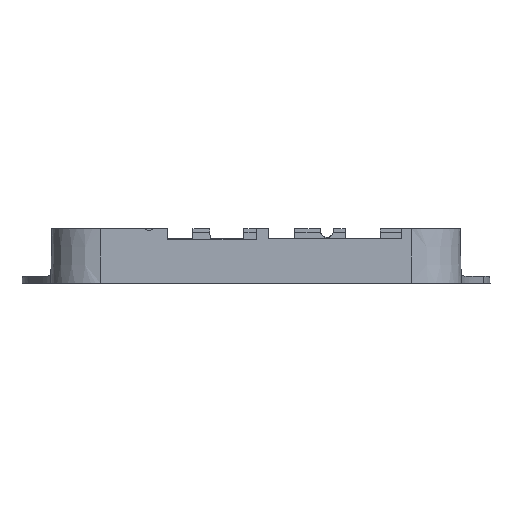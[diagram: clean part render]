
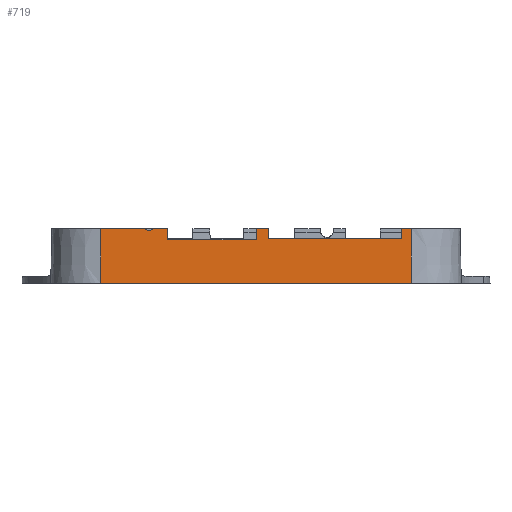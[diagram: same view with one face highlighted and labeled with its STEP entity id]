
A CAD part, left-side view. The second image highlights one B-rep face of the part: STEP entity #719.
In plain terms, the highlighted planar face has unit normal (-1, 0, 0.017).
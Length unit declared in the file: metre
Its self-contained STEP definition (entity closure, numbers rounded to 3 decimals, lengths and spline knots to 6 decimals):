
#719=ADVANCED_FACE('0:3968',(#1437),#1438,.T.);
#1437=FACE_OUTER_BOUND('',#3755,.T.);
#1438=PLANE('',#3756);
#3755=EDGE_LOOP('',(#5668,#5669,#5670,#5671,#5672,#5673,#5674,#5675,#5676,#5677,#5678,#5679,#5680,#5681));
#3756=AXIS2_PLACEMENT_3D('',#5682,#5683,#5684);
#5668=ORIENTED_EDGE('',*,*,#6835,.F.);
#5669=ORIENTED_EDGE('',*,*,#6535,.F.);
#5670=ORIENTED_EDGE('',*,*,#6818,.T.);
#5671=ORIENTED_EDGE('',*,*,#6637,.T.);
#5672=ORIENTED_EDGE('',*,*,#6836,.T.);
#5673=ORIENTED_EDGE('',*,*,#6515,.T.);
#5674=ORIENTED_EDGE('',*,*,#6832,.T.);
#5675=ORIENTED_EDGE('',*,*,#6632,.T.);
#5676=ORIENTED_EDGE('',*,*,#6837,.T.);
#5677=ORIENTED_EDGE('',*,*,#6505,.T.);
#5678=ORIENTED_EDGE('',*,*,#6503,.T.);
#5679=ORIENTED_EDGE('',*,*,#6498,.F.);
#5680=ORIENTED_EDGE('',*,*,#6698,.F.);
#5681=ORIENTED_EDGE('',*,*,#6713,.T.);
#5682=CARTESIAN_POINT('',(-0.003227,0.095471,0.000001));
#5683=DIRECTION('',(-1.,0.,0.017));
#5684=DIRECTION('',(0.,1.0,0.0));
#6498=EDGE_CURVE('0:1928',#7697,#7700,#7701,.F.);
#6503=EDGE_CURVE('0:1925',#7705,#7700,#7707,.F.);
#6505=EDGE_CURVE('0:1922',#7709,#7705,#7710,.T.);
#6515=EDGE_CURVE('0:1910',#7722,#7724,#7726,.T.);
#6535=EDGE_CURVE('0:1781',#7755,#7757,#7758,.F.);
#6632=EDGE_CURVE('0:1916',#7895,#7893,#7896,.T.);
#6637=EDGE_CURVE('0:1904',#7904,#7902,#7905,.T.);
#6698=EDGE_CURVE('0:5125',#7970,#7697,#7971,.T.);
#6713=EDGE_CURVE('0:1004',#7970,#7986,#7988,.T.);
#6818=EDGE_CURVE('0:5254',#7755,#7904,#8138,.T.);
#6832=EDGE_CURVE('0:5214',#7724,#7895,#8152,.T.);
#6835=EDGE_CURVE('0:5244',#7757,#7986,#8155,.T.);
#6836=EDGE_CURVE('0:5201',#7902,#7722,#8156,.T.);
#6837=EDGE_CURVE('0:5115',#7893,#7709,#8157,.T.);
#7697=VERTEX_POINT('',#9732);
#7700=VERTEX_POINT('',#9735);
#7701=LINE('',#9736,#9737);
#7705=VERTEX_POINT('',#9743);
#7707=ELLIPSE('',#9746,0.00175,0.00175);
#7709=VERTEX_POINT('',#9748);
#7710=LINE('',#9749,#9750);
#7722=VERTEX_POINT('',#9767);
#7724=VERTEX_POINT('',#9770);
#7726=LINE('',#9773,#9774);
#7755=VERTEX_POINT('',#9814);
#7757=VERTEX_POINT('',#9817);
#7758=LINE('',#9818,#9819);
#7893=VERTEX_POINT('',#10014);
#7895=VERTEX_POINT('',#10017);
#7896=LINE('',#10018,#10019);
#7902=VERTEX_POINT('',#10027);
#7904=VERTEX_POINT('',#10030);
#7905=LINE('',#10031,#10032);
#7970=VERTEX_POINT('',#10114);
#7971=LINE('',#10115,#10116);
#7986=VERTEX_POINT('',#10137);
#7988=LINE('',#10139,#10140);
#8138=LINE('',#10562,#10563);
#8152=LINE('',#10583,#10584);
#8155=LINE('',#10588,#10589);
#8156=LINE('',#10590,#10591);
#8157=LINE('',#10592,#10593);
#9732=CARTESIAN_POINT('',(-0.003209,0.095522,0.001083));
#9735=CARTESIAN_POINT('',(-0.003209,0.083501,0.001083));
#9736=CARTESIAN_POINT('',(-0.003209,0.074183,0.001083));
#9737=VECTOR('',#11268,0.01);
#9743=CARTESIAN_POINT('',(-0.003209,0.081099,0.001083));
#9746=AXIS2_PLACEMENT_3D('',#11272,#11273,#11274);
#9748=CARTESIAN_POINT('',(-0.003209,0.077183,0.001083));
#9749=CARTESIAN_POINT('',(-0.003209,0.074183,0.001083));
#9750=VECTOR('',#11275,0.01);
#9767=CARTESIAN_POINT('',(-0.003209,0.049405,0.001083));
#9770=CARTESIAN_POINT('',(-0.003209,0.052802,0.001083));
#9773=CARTESIAN_POINT('',(-0.003209,0.074183,0.001083));
#9774=VECTOR('',#11283,0.01);
#9814=CARTESIAN_POINT('',(-0.003209,0.012843,0.001083));
#9817=CARTESIAN_POINT('',(-0.003209,0.010269,0.001083));
#9818=CARTESIAN_POINT('',(-0.003209,0.074183,0.001083));
#9819=VECTOR('',#11302,0.01);
#10014=CARTESIAN_POINT('',(-0.00326,0.077156,-0.001984));
#10017=CARTESIAN_POINT('',(-0.00326,0.052829,-0.001984));
#10018=CARTESIAN_POINT('',(-0.00326,0.082853,-0.001984));
#10019=VECTOR('',#11409,0.01);
#10027=CARTESIAN_POINT('',(-0.003255,0.049381,-0.001684));
#10030=CARTESIAN_POINT('',(-0.003255,0.012867,-0.001684));
#10031=CARTESIAN_POINT('',(-0.003255,0.067992,-0.001684));
#10032=VECTOR('',#11413,0.01);
#10114=CARTESIAN_POINT('',(-0.003459,0.095504,-0.014));
#10115=CARTESIAN_POINT('',(-0.003311,0.095515,-0.005062));
#10116=VECTOR('',#11467,0.010001);
#10137=CARTESIAN_POINT('',(-0.003459,0.010287,-0.014));
#10139=CARTESIAN_POINT('',(-0.003459,0.074183,-0.014));
#10140=VECTOR('',#11480,0.01);
#10562=CARTESIAN_POINT('',(-0.00322,0.012848,0.000458));
#10563=VECTOR('',#11559,1.0);
#10583=CARTESIAN_POINT('',(-0.003216,0.052806,0.000646));
#10584=VECTOR('',#11566,1.0);
#10588=CARTESIAN_POINT('',(-0.003316,0.010277,-0.005386));
#10589=VECTOR('',#11568,0.010001);
#10590=CARTESIAN_POINT('',(-0.003209,0.049406,0.001118));
#10591=VECTOR('',#11569,1.0);
#10592=CARTESIAN_POINT('',(-0.003211,0.077182,0.000949));
#10593=VECTOR('',#11570,1.0);
#11268=DIRECTION('',(0.,1.0,0.0));
#11272=CARTESIAN_POINT('',(-0.003188,0.0823,0.002356));
#11273=DIRECTION('',(-1.,0.,0.017));
#11274=DIRECTION('',(0.017,0.,1.));
#11275=DIRECTION('',(0.,1.0,0.0));
#11283=DIRECTION('',(0.,1.0,0.0));
#11302=DIRECTION('',(0.,1.0,0.0));
#11409=DIRECTION('',(0.,1.0,0.0));
#11413=DIRECTION('',(0.,1.0,0.0));
#11467=DIRECTION('',(0.017,0.001,1.));
#11480=DIRECTION('',(0.,-1.0,0.));
#11559=DIRECTION('',(-0.017,0.009,-1.));
#11566=DIRECTION('',(-0.017,0.009,-1.));
#11568=DIRECTION('',(-0.017,0.001,-1.));
#11569=DIRECTION('',(0.017,0.009,1.));
#11570=DIRECTION('',(0.017,0.009,1.));
